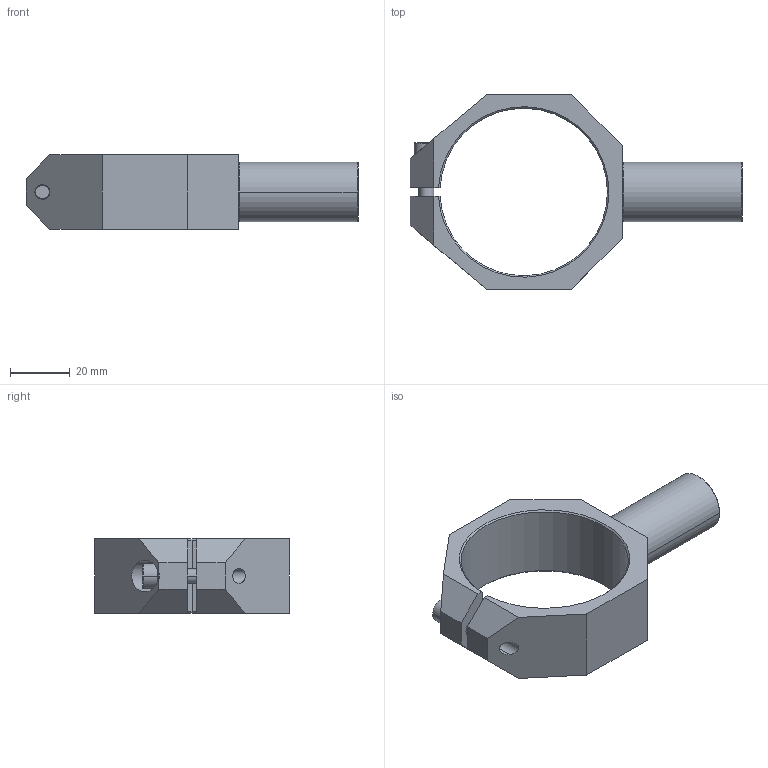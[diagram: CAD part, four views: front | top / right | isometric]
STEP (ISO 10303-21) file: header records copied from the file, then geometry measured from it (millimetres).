
FILE_DESCRIPTION (( 'STEP AP214' ), '1' );
FILE_NAME ('SCE-NR30T.STEP', '2023-01-16T01:01:10', ( 'Windows User' ), ( 'P R C' ), 'SwSTEP 2.0', 'SolidWorks 2019', '' );
FILE_SCHEMA (( 'AUTOMOTIVE_DESIGN' ));
Length unit declared in the file: millimetre
Products named in the file (4): PTS-M5; PTC-M5L16; SCE-NR30; SCE-NR30T
Assembly tree (3 placements, depth 2):
  SCE-NR30T
    SCE-NR30
    PTC-M5L16
    PTS-M5
Bounding box: 111 x 65 x 25 mm (x, y, z)
Volume: 37138.4 mm3; surface area: 17556.7 mm2
Topology: 3 solids, 3 shells, 226 faces, 639 edges, 420 vertices
Faces by surface type: plane 189, cylinder 20, cone 15, torus 2
Entity records: 7512 total; most frequent: CARTESIAN_POINT 1313, DIRECTION 1306, ORIENTED_EDGE 1274, EDGE_CURVE 637, AXIS2_PLACEMENT_3D 445, VERTEX_POINT 420, VECTOR 416, LINE 416
